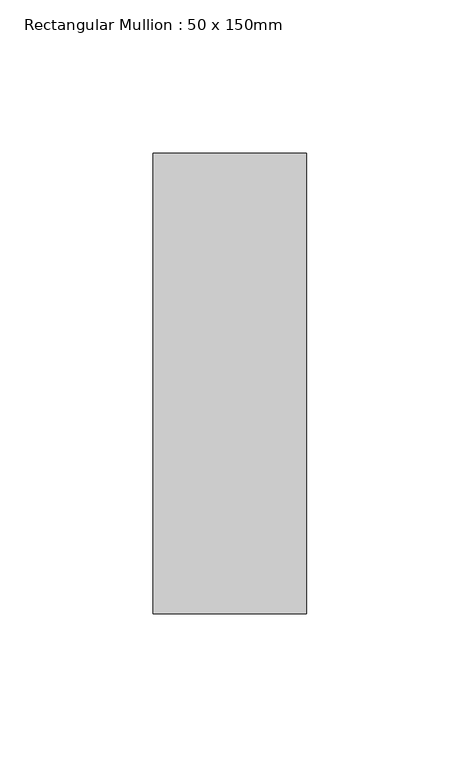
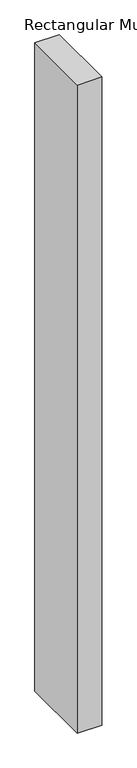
"""IFC4 building model written with IfcOpenShell, lengths in millimetres: member geometry, Rectangular Mullion : 50 x 150mm."""

from ifc_helpers import new_model, si_unit, frame, origin, place, context, project, spatial, polyline, outline, extrude, source, transform, mapped, element, save


def rectangular_mullion_50_x_150mm_3c20ccb2(model_context):
    return source(origin(), model_context, "Body", "SweptSolid", [
        extrude(outline(polyline([(0.0, 75.0), (0.0, -75.0), (-50.0, -75.0), (-50.0, 75.0), (0.0, 75.0)])), frame((0.0, 0.0, -1403.0), z_axis=(0.0, 0.0, 1.0), x_axis=(1.0, 0.0, 0.0)), (0.0, 0.0, 1.0), 1403.0),
    ])


if __name__ == "__main__":
    model = new_model("IFC4")
    model_context = context("Model", 3, world=origin())
    ifc_project = project(units=[si_unit("LENGTHUNIT", "METRE", prefix="MILLI")], contexts=[model_context])
    site = spatial("IfcSite", under=ifc_project)
    building = spatial("IfcBuilding", under=site)
    placement = place(None, origin())
    rectangular_mullion_50_x_150mm_shape = rectangular_mullion_50_x_150mm_3c20ccb2(model_context)
    element("IfcMember", 1, ObjectType="Rectangular Mullion : 50 x 150mm", at=placement, inside=building, context=model_context, shape_type="MappedRepresentation", body=[
        mapped(rectangular_mullion_50_x_150mm_shape, transform((0.0, 0.0, 0.0), x_axis=(1.0, 0.0, 0.0), y_axis=(0.0, 1.0, 0.0), z_axis=(0.0, 0.0, 1.0))),
    ])
    save(model, "model.ifc")
